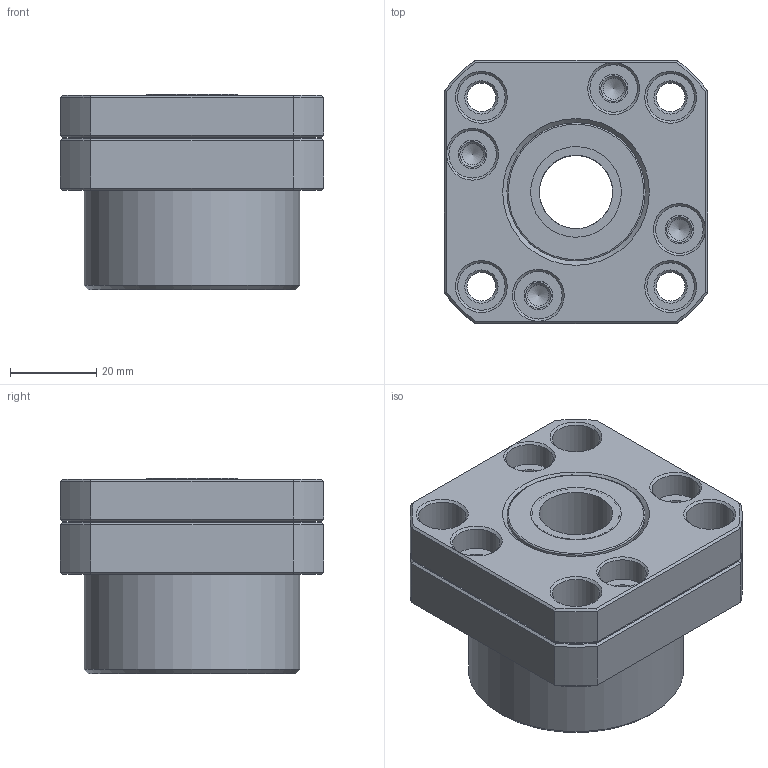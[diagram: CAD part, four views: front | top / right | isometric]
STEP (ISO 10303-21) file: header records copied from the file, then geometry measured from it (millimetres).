
FILE_DESCRIPTION(/* description */ (''),/* implementation_level */ '2;1');
FILE_NAME(/* name */ 'D:\owncloud\Kamp und Kötter\Artikel\_CAD-Dateien\Lagerbloecke\FKFF17\Flansch-Loslager KUS25.stp',/* time_stamp */ '2019-02-17T18:36:55+01:00',/* author */ ('Buskamp'),/* organization */ (''),/* preprocessor_version */ 'ST-DEVELOPER v17',/* originating_system */ 'Autodesk Inventor 2019',/* authorisation */ '');
FILE_SCHEMA (('AUTOMOTIVE_DESIGN { 1 0 10303 214 3 1 1 }'));
Length unit declared in the file: millimetre
Products named in the file (8): Festlager; Festlagerblock; Festlagerdeckel; Rolling bearing 70000AC 7203 AC GB/T 292; Passscheibe28x40x0_2; DIN 3760 - AS - 20 x 32 x 7 - NBR; FestlagerRing-1; FestlagerRing-2
Assembly tree (9 placements, depth 2):
  Festlager
    Festlagerblock
    Festlagerdeckel
    Rolling bearing 70000AC 7203 AC GB/T 292  x2
    Passscheibe28x40x0_2
    DIN 3760 - AS - 20 x 32 x 7 - NBR  x2
    FestlagerRing-1
    FestlagerRing-2
Bounding box: 61 x 61 x 45.2 mm (x, y, z)
Volume: 91026.3 mm3; surface area: 50468.9 mm2
Topology: 25 solids, 25 shells, 237 faces, 617 edges, 413 vertices
Faces by surface type: cone 65, plane 57, cylinder 55, torus 46, sphere 14
Full cylindrical faces by diameter (mm): 4.917 x4, 6.6 x4, 6.7 x4, 11 x8, 17 x4, 21 x2, 24.2 x2, 24.498 x4, 28 x1, 28.5 x2, 32 x4, 32.502 x2, 40 x5, 50 x1
Entity records: 6216 total; most frequent: DIRECTION 1129, CARTESIAN_POINT 1087, ORIENTED_EDGE 916, AXIS2_PLACEMENT_3D 499, EDGE_CURVE 458, VERTEX_POINT 329, CIRCLE 295, EDGE_LOOP 253
